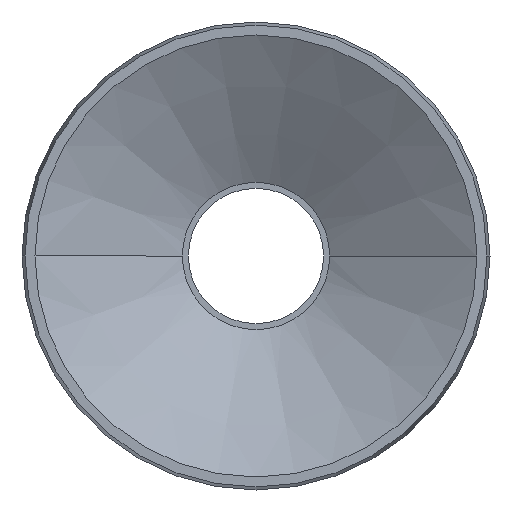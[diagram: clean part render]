
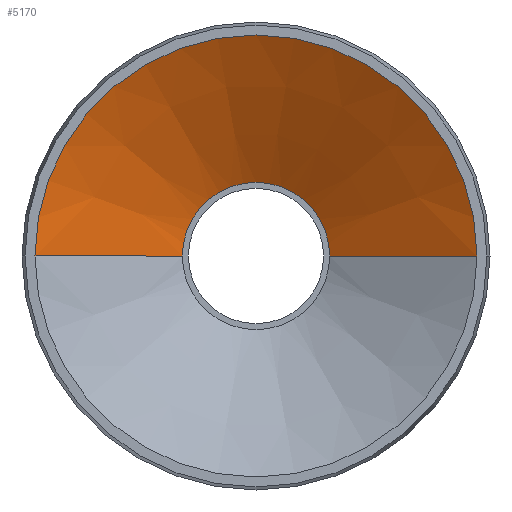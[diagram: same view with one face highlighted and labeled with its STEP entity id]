
A CAD part, front view. The second image highlights one B-rep face of the part: STEP entity #5170.
In plain terms, the highlighted conical face has half-angle 60 degrees and reference radius 25.5 mm.
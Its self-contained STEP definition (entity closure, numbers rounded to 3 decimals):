
#3970=CARTESIAN_POINT('',(-194.476,34.421,0.));
#3980=VERTEX_POINT('',#3970);
#4060=CARTESIAN_POINT('',(-211.476,34.421,
0.));
#4070=VERTEX_POINT('',#4060);
#4100=CARTESIAN_POINT('',(-202.976,34.421,0.));
#4110=DIRECTION('',(0.,-1.,0.));
#4120=DIRECTION('',(1.,0.,0.));
#4130=AXIS2_PLACEMENT_3D('',#4100,#4110,#4120);
#4140=CIRCLE('',#4130,8.5);
#4150=EDGE_CURVE('',#3980,#4070,#4140,.T.);
#4860=CARTESIAN_POINT('',(-202.976,24.606,0.));
#4870=DIRECTION('',(0.,-1.,0.));
#4880=DIRECTION('',(1.,0.,0.));
#4890=AXIS2_PLACEMENT_3D('',#4860,#4870,#4880);
#4900=CONICAL_SURFACE('',#4890,25.5,1.047);
#4910=CARTESIAN_POINT('',(-228.476,24.606,
0.));
#4920=DIRECTION('',(-0.866,-0.5,0.));
#4930=VECTOR('',#4920,29.445);
#4940=LINE('',#4910,#4930);
#4950=CARTESIAN_POINT('',(-228.476,24.606,
0.));
#4960=VERTEX_POINT('',#4950);
#4970=EDGE_CURVE('',#4070,#4960,#4940,.T.);
#4980=ORIENTED_EDGE('',*,*,#4970,.F.);
#4990=CARTESIAN_POINT('',(-202.976,24.606,0.));
#5000=DIRECTION('',(0.,-1.,0.));
#5010=DIRECTION('',(-1.,0.,0.));
#5020=AXIS2_PLACEMENT_3D('',#4990,#5000,#5010);
#5030=CIRCLE('',#5020,25.5);
#5040=CARTESIAN_POINT('',(-177.476,24.606,
0.));
#5050=VERTEX_POINT('',#5040);
#5060=EDGE_CURVE('',#5050,#4960,#5030,.T.);
#5070=ORIENTED_EDGE('',*,*,#5060,.T.);
#5080=CARTESIAN_POINT('',(-177.476,24.606,
0.));
#5090=DIRECTION('',(0.866,-0.5,0.));
#5100=VECTOR('',#5090,29.445);
#5110=LINE('',#5080,#5100);
#5120=EDGE_CURVE('',#3980,#5050,#5110,.T.);
#5130=ORIENTED_EDGE('',*,*,#5120,.T.);
#5140=ORIENTED_EDGE('',*,*,#4150,.F.);
#5150=EDGE_LOOP('',(#5140,#5130,#5070,#4980));
#5160=FACE_OUTER_BOUND('',#5150,.T.);
#5170=ADVANCED_FACE('',(#5160),#4900,.F.);
